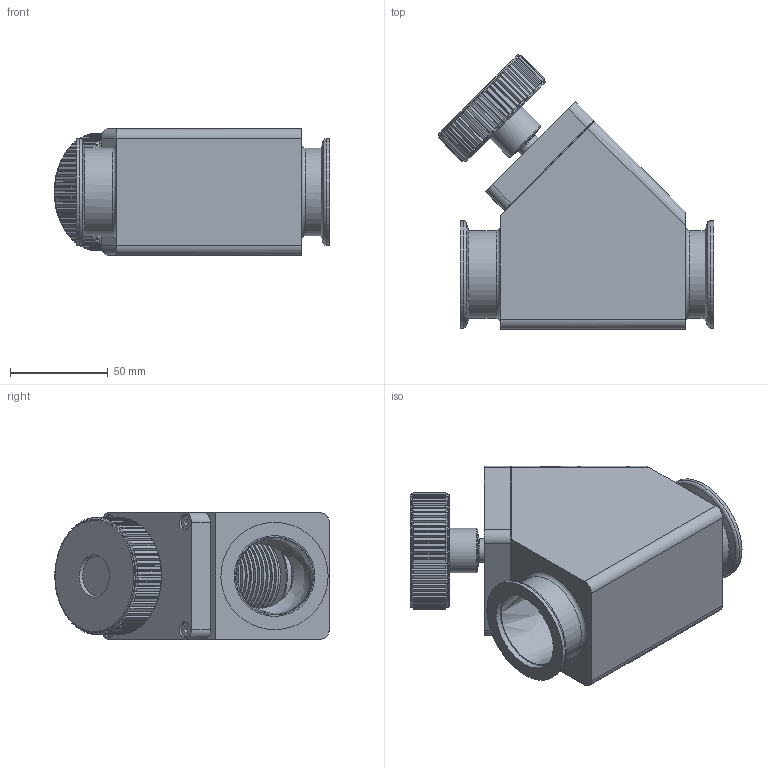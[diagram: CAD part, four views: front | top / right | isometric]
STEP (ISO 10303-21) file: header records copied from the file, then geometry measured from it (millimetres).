
FILE_DESCRIPTION((''),'2;1');
FILE_NAME('O:\MT\MT\Systeme\Cad\Datenexporte\www_vat_ch\256622.stp','2004-11-18T14:29:36',('User'),('SDRC'),'I-DEAS Master Series 9','UNIX','Yes');
FILE_SCHEMA(('CONFIG_CONTROL_DESIGN'));
Length unit declared in the file: millimetre
Assembly tree (13 placements, depth 0):
Bounding box: 141.18 x 140.64 x 65 mm (x, y, z)
Volume: 393839.6 mm3; surface area: 187058.6 mm2
Topology: 20 solids, 20 shells, 829 faces, 1686 edges, 1038 vertices
Faces by surface type: bspline 829
Entity records: 31663 total; most frequent: CARTESIAN_POINT 20717, ORIENTED_EDGE 3106, EDGE_CURVE 1553, VERTEX_POINT 928, EDGE_LOOP 919, FACE_OUTER_BOUND 772, ADVANCED_FACE 772, QUASI_UNIFORM_CURVE 542
